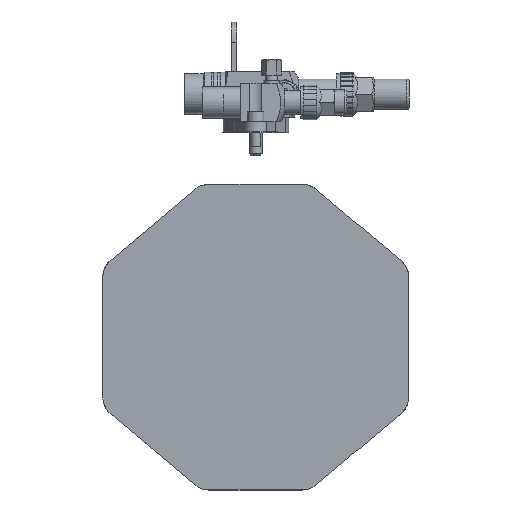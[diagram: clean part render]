
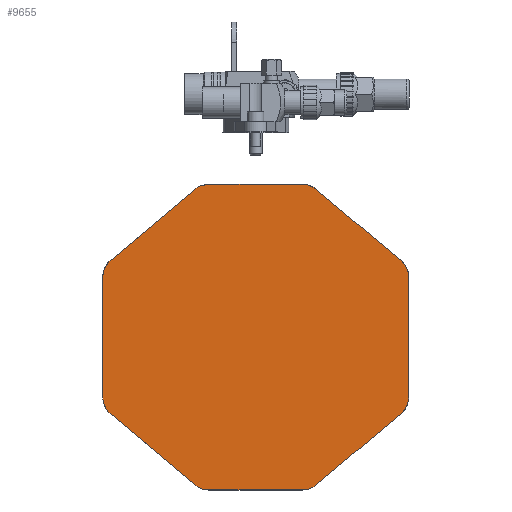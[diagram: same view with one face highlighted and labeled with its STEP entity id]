
A CAD part, left-side view. The second image highlights one B-rep face of the part: STEP entity #9655.
In plain terms, the highlighted planar face has unit normal (-1, 0, 0) as drawn and (0, 0, 1) by its records, which use the part's own axes.
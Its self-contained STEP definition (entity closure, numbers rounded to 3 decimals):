
#6260=FACE_OUTER_BOUND('',#11377,.T.);
#7604=LINE('',#29032,#8748);
#7605=LINE('',#29037,#8749);
#7606=LINE('',#29041,#8750);
#7607=LINE('',#29045,#8751);
#7608=LINE('',#29049,#8752);
#7609=LINE('',#29053,#8753);
#7610=LINE('',#29057,#8754);
#7611=LINE('',#29061,#8755);
#8748=VECTOR('',#23733,1.);
#8749=VECTOR('',#23736,1.);
#8750=VECTOR('',#23739,1.);
#8751=VECTOR('',#23742,1.);
#8752=VECTOR('',#23745,1.);
#8753=VECTOR('',#23748,1.);
#8754=VECTOR('',#23751,1.);
#8755=VECTOR('',#23754,1.);
#9655=ADVANCED_FACE('',(#6260),#10310,.F.);
#10310=PLANE('',#20695);
#11377=EDGE_LOOP('',(#14462,#14463,#14464,#14465,#14466,#14467,#14468,#14469,
#14470,#14471,#14472,#14473,#14474,#14475,#14476,#14477));
#14462=ORIENTED_EDGE('',*,*,#18625,.T.);
#14463=ORIENTED_EDGE('',*,*,#18626,.T.);
#14464=ORIENTED_EDGE('',*,*,#18627,.T.);
#14465=ORIENTED_EDGE('',*,*,#18628,.T.);
#14466=ORIENTED_EDGE('',*,*,#18629,.T.);
#14467=ORIENTED_EDGE('',*,*,#18630,.T.);
#14468=ORIENTED_EDGE('',*,*,#18631,.T.);
#14469=ORIENTED_EDGE('',*,*,#18632,.T.);
#14470=ORIENTED_EDGE('',*,*,#18633,.T.);
#14471=ORIENTED_EDGE('',*,*,#18634,.T.);
#14472=ORIENTED_EDGE('',*,*,#18635,.T.);
#14473=ORIENTED_EDGE('',*,*,#18636,.T.);
#14474=ORIENTED_EDGE('',*,*,#18637,.T.);
#14475=ORIENTED_EDGE('',*,*,#18638,.T.);
#14476=ORIENTED_EDGE('',*,*,#18639,.T.);
#14477=ORIENTED_EDGE('',*,*,#18640,.T.);
#16787=VERTEX_POINT('',#29033);
#16788=VERTEX_POINT('',#29034);
#16789=VERTEX_POINT('',#29036);
#16790=VERTEX_POINT('',#29038);
#16791=VERTEX_POINT('',#29040);
#16792=VERTEX_POINT('',#29042);
#16793=VERTEX_POINT('',#29044);
#16794=VERTEX_POINT('',#29046);
#16795=VERTEX_POINT('',#29048);
#16796=VERTEX_POINT('',#29050);
#16797=VERTEX_POINT('',#29052);
#16798=VERTEX_POINT('',#29054);
#16799=VERTEX_POINT('',#29056);
#16800=VERTEX_POINT('',#29058);
#16801=VERTEX_POINT('',#29060);
#16802=VERTEX_POINT('',#29062);
#18625=EDGE_CURVE('',#16787,#16788,#7604,.T.);
#18626=EDGE_CURVE('',#16788,#16789,#19600,.T.);
#18627=EDGE_CURVE('',#16789,#16790,#7605,.T.);
#18628=EDGE_CURVE('',#16790,#16791,#19601,.T.);
#18629=EDGE_CURVE('',#16791,#16792,#7606,.T.);
#18630=EDGE_CURVE('',#16792,#16793,#19602,.T.);
#18631=EDGE_CURVE('',#16793,#16794,#7607,.T.);
#18632=EDGE_CURVE('',#16794,#16795,#19603,.T.);
#18633=EDGE_CURVE('',#16795,#16796,#7608,.T.);
#18634=EDGE_CURVE('',#16796,#16797,#19604,.T.);
#18635=EDGE_CURVE('',#16797,#16798,#7609,.T.);
#18636=EDGE_CURVE('',#16798,#16799,#19605,.T.);
#18637=EDGE_CURVE('',#16799,#16800,#7610,.T.);
#18638=EDGE_CURVE('',#16800,#16801,#19606,.T.);
#18639=EDGE_CURVE('',#16801,#16802,#7611,.T.);
#18640=EDGE_CURVE('',#16802,#16787,#19607,.T.);
#19600=CIRCLE('',#20687,16.);
#19601=CIRCLE('',#20688,16.);
#19602=CIRCLE('',#20689,16.);
#19603=CIRCLE('',#20690,16.);
#19604=CIRCLE('',#20691,16.);
#19605=CIRCLE('',#20692,16.);
#19606=CIRCLE('',#20693,16.);
#19607=CIRCLE('',#20694,16.);
#20687=AXIS2_PLACEMENT_3D('',#29035,#23734,#23735);
#20688=AXIS2_PLACEMENT_3D('',#29039,#23737,#23738);
#20689=AXIS2_PLACEMENT_3D('',#29043,#23740,#23741);
#20690=AXIS2_PLACEMENT_3D('',#29047,#23743,#23744);
#20691=AXIS2_PLACEMENT_3D('',#29051,#23746,#23747);
#20692=AXIS2_PLACEMENT_3D('',#29055,#23749,#23750);
#20693=AXIS2_PLACEMENT_3D('',#29059,#23752,#23753);
#20694=AXIS2_PLACEMENT_3D('',#29063,#23755,#23756);
#20695=AXIS2_PLACEMENT_3D('',#29064,#23757,#23758);
#23733=DIRECTION('',(0.,-1.,0.));
#23734=DIRECTION('',(0.,0.,1.));
#23735=DIRECTION('',(-1.,0.,0.));
#23736=DIRECTION('',(0.766,-0.643,0.));
#23737=DIRECTION('',(0.,0.,1.));
#23738=DIRECTION('',(-1.,0.,0.));
#23739=DIRECTION('',(1.,0.,0.));
#23740=DIRECTION('',(0.,0.,1.));
#23741=DIRECTION('',(-1.,0.,0.));
#23742=DIRECTION('',(0.766,0.643,0.));
#23743=DIRECTION('',(0.,0.,1.));
#23744=DIRECTION('',(-1.,0.,0.));
#23745=DIRECTION('',(0.,1.,0.));
#23746=DIRECTION('',(0.,0.,1.));
#23747=DIRECTION('',(-1.,0.,0.));
#23748=DIRECTION('',(-0.766,0.643,0.));
#23749=DIRECTION('',(0.,0.,1.));
#23750=DIRECTION('',(-1.,0.,0.));
#23751=DIRECTION('',(-1.,0.,0.));
#23752=DIRECTION('',(0.,0.,1.));
#23753=DIRECTION('',(-1.,0.,0.));
#23754=DIRECTION('',(-0.766,-0.643,0.));
#23755=DIRECTION('',(0.,0.,1.));
#23756=DIRECTION('',(-1.,0.,0.));
#23757=DIRECTION('',(0.,0.,-1.));
#23758=DIRECTION('',(-1.,0.,0.));
#29032=CARTESIAN_POINT('',(-120.6,0.,40.38));
#29033=CARTESIAN_POINT('',(-120.6,47.941,40.38));
#29034=CARTESIAN_POINT('',(-120.6,-47.941,40.38));
#29035=CARTESIAN_POINT('',(-104.6,-47.941,40.38));
#29036=CARTESIAN_POINT('',(-114.885,-60.198,40.38));
#29037=CARTESIAN_POINT('',(-120.6,-55.402,40.38));
#29038=CARTESIAN_POINT('',(-47.361,-116.857,40.38));
#29039=CARTESIAN_POINT('',(-37.076,-104.6,40.38));
#29040=CARTESIAN_POINT('',(-37.076,-120.6,40.38));
#29041=CARTESIAN_POINT('',(0.,-120.6,40.38));
#29042=CARTESIAN_POINT('',(37.076,-120.6,40.38));
#29043=CARTESIAN_POINT('',(37.076,-104.6,40.38));
#29044=CARTESIAN_POINT('',(47.361,-116.857,40.38));
#29045=CARTESIAN_POINT('',(42.9,-120.6,40.38));
#29046=CARTESIAN_POINT('',(114.885,-60.198,40.38));
#29047=CARTESIAN_POINT('',(104.6,-47.941,40.38));
#29048=CARTESIAN_POINT('',(120.6,-47.941,40.38));
#29049=CARTESIAN_POINT('',(120.6,0.,40.38));
#29050=CARTESIAN_POINT('',(120.6,47.941,40.38));
#29051=CARTESIAN_POINT('',(104.6,47.941,40.38));
#29052=CARTESIAN_POINT('',(114.885,60.198,40.38));
#29053=CARTESIAN_POINT('',(120.6,55.402,40.38));
#29054=CARTESIAN_POINT('',(47.361,116.857,40.38));
#29055=CARTESIAN_POINT('',(37.076,104.6,40.38));
#29056=CARTESIAN_POINT('',(37.076,120.6,40.38));
#29057=CARTESIAN_POINT('',(0.,120.6,40.38));
#29058=CARTESIAN_POINT('',(-37.076,120.6,40.38));
#29059=CARTESIAN_POINT('',(-37.076,104.6,40.38));
#29060=CARTESIAN_POINT('',(-47.361,116.857,40.38));
#29061=CARTESIAN_POINT('',(-42.9,120.6,40.38));
#29062=CARTESIAN_POINT('',(-114.885,60.198,40.38));
#29063=CARTESIAN_POINT('',(-104.6,47.941,40.38));
#29064=CARTESIAN_POINT('',(0.,-107.5,40.38));
